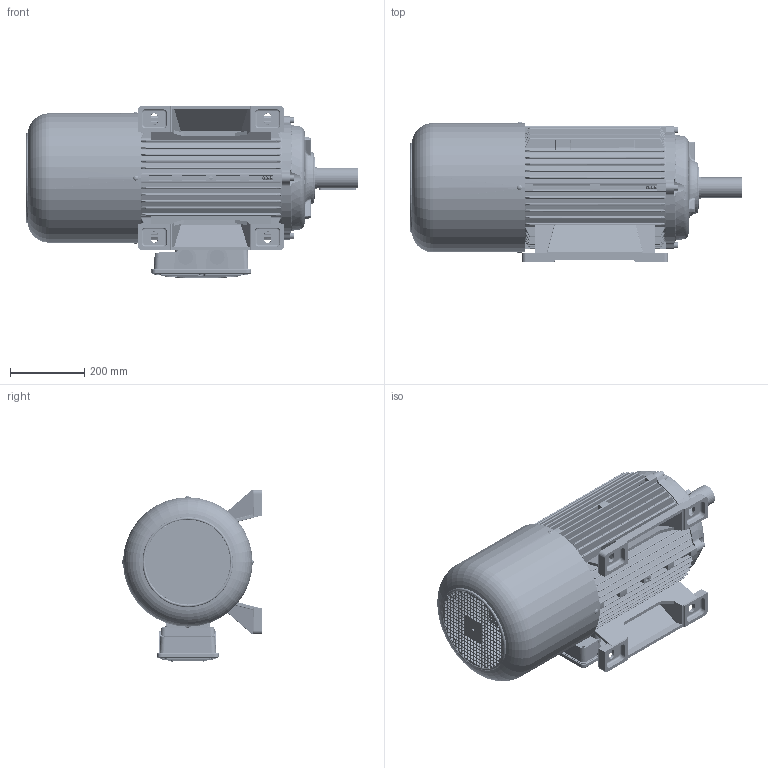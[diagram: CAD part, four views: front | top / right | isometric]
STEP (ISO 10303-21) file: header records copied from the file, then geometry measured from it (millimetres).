
FILE_DESCRIPTION (( 'STEP AP214' ), '1' );
FILE_NAME ('M14NA0010.STEP', '2019-10-11T10:33:06', ( '' ), ( '' ), 'SwSTEP 2.0', 'SolidWorks 2018', '' );
FILE_SCHEMA (( 'AUTOMOTIVE_DESIGN' ));
Length unit declared in the file: millimetre
Products named in the file (15): Vite a Brugola M10x75; Vite testa rotonda M6; Cuffia BM 180-200; Scudo Lato Freno P1 BM 180-200 - D7CL0005; Scatola Morsettiera Doppia BA 160 - 180 - 200 - Completa; Guarnizione Basetta BA 160-180 - 200 - D6BB0000; Vite Testa Bombata M6x20; Guarnizione Coperchio Sc. Mor. BA 160-180-200 - D6BA0100; Coperchio Scatola Morsettiera Doppia BA 160 - 180 - 200 - D6A60099; Scatola Morsettiera Doppia BA 160 - 180 - 200 - D6A70299; Chiavetta 200-225 2p; Albero BM 200 L; Scudo Lato Comando B3 BA-CF 200 - D7A40099; Carcassa 200 B3; M14NA0010
Assembly tree (25 placements, depth 3):
  M14NA0010
    Carcassa 200 B3
    Scudo Lato Comando B3 BA-CF 200 - D7A40099
    Albero BM 200 L
    Chiavetta 200-225 2p
    Scatola Morsettiera Doppia BA 160 - 180 - 200 - Completa
      Scatola Morsettiera Doppia BA 160 - 180 - 200 - D6A70299
      Coperchio Scatola Morsettiera Doppia BA 160 - 180 - 200 - D6A60099
      Guarnizione Coperchio Sc. Mor. BA 160-180-200 - D6BA0100
      Vite Testa Bombata M6x20  x6
      Guarnizione Basetta BA 160-180 - 200 - D6BB0000
    Scudo Lato Freno P1 BM 180-200 - D7CL0005
    Cuffia BM 180-200
    Vite testa rotonda M6  x4
    Vite a Brugola M10x75  x4
Bounding box: 892.99 x 377.14 x 463.74 mm (x, y, z)
Volume: 14611726.5 mm3; surface area: 3524638.7 mm2
Topology: 24 solids, 24 shells, 5013 faces, 13760 edges, 8699 vertices
Faces by surface type: plane 2119, cylinder 1746, bspline 449, torus 388, sphere 158, cone 153
Entity records: 163103 total; most frequent: CARTESIAN_POINT 57429, ORIENTED_EDGE 22752, DIRECTION 20395, EDGE_CURVE 11376, VERTEX_POINT 7216, AXIS2_PLACEMENT_3D 6874, LINE 6647, VECTOR 6647
